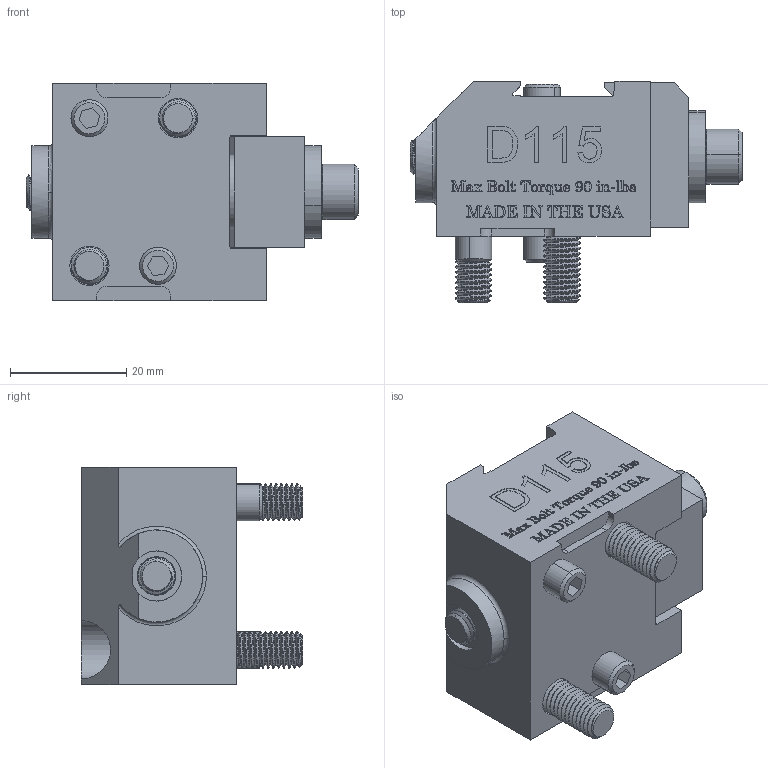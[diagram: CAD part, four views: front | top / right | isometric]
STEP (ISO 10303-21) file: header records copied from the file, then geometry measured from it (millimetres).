
FILE_DESCRIPTION (( 'STEP AP214' ), '1' );
FILE_NAME ('D115.STEP', '2019-05-07T15:10:56', ( '' ), ( '' ), 'SwSTEP 2.0', 'SolidWorks 2018', '' );
FILE_SCHEMA (( 'AUTOMOTIVE_DESIGN' ));
Length unit declared in the file: inch
Products named in the file (9): 72098_91251A441; HW.LCM110E01M; 73072_DEFAULT; HW.0250.FW_DEFAULT; SLD25_SLD25; CDS25; LP250_NO THREADS ; D115-1; D115
Assembly tree (11 placements, depth 2):
  D115
    D115-1
    LP250_NO THREADS   x3
    CDS25
    SLD25_SLD25
    HW.0250.FW_DEFAULT
    73072_DEFAULT
    HW.LCM110E01M
    72098_91251A441  x2
Bounding box: 57.15 x 38.1 x 37.47 mm (x, y, z)
Volume: 36882.1 mm3; surface area: 20520.8 mm2
Topology: 11 solids, 11 shells, 1686 faces, 4595 edges, 3034 vertices
Faces by surface type: plane 742, bspline 431, cylinder 426, cone 79, torus 8
Entity records: 83757 total; most frequent: CARTESIAN_POINT 36789, ORIENTED_EDGE 8084, DIRECTION 5053, EDGE_CURVE 4042, VERTEX_POINT 2677, VECTOR 2499, LINE 2499, EDGE_LOOP 1593
